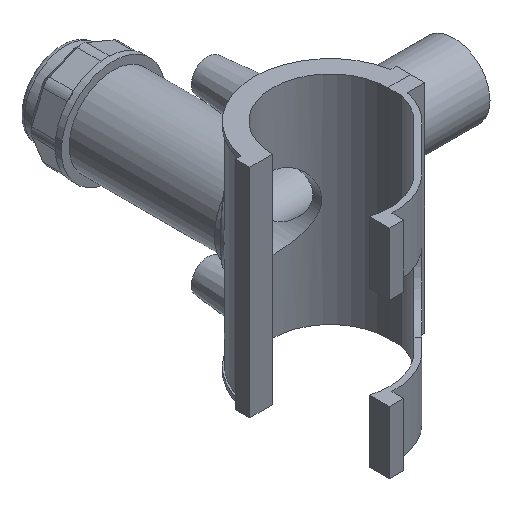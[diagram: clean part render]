
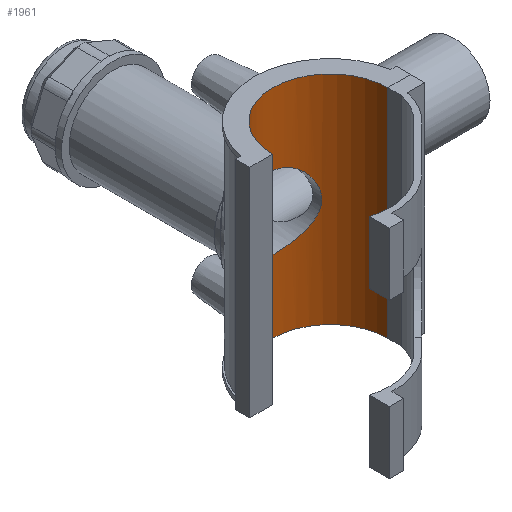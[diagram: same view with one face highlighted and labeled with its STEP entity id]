
A CAD part, isometric view. The second image highlights one B-rep face of the part: STEP entity #1961.
In plain terms, the highlighted cylindrical face has radius 26.55 mm (diameter 53.1 mm), a partial arc.
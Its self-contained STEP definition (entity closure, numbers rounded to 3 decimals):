
#51=FACE_BOUND('',#632,.T.);
#52=B_SPLINE_CURVE_WITH_KNOTS('',3,(#2806,#2807,#2808,#2809,#2810,#2811,
#2812,#2813,#2814,#2815,#2816,#2817,#2818,#2819,#2820,#2821,#2822,#2823,
#2824,#2825,#2826,#2827,#2828,#2829,#2830,#2831,#2832,#2833,#2834,#2835,
#2836,#2837,#2838,#2839,#2840,#2841,#2842,#2843,#2844,#2845,#2846,#2847,
#2848,#2849),.UNSPECIFIED.,.F.,.F.,(4,2,2,2,2,2,2,2,2,2,2,2,2,2,2,2,2,2,
2,2,2,4),(0.,0.328,0.655,1.311,1.636,
1.961,2.286,2.611,2.936,3.261,
3.585,3.91,4.566,4.893,5.221,
5.549,5.876,6.532,6.857,7.182,
7.507,7.832),.UNSPECIFIED.);
#53=B_SPLINE_CURVE_WITH_KNOTS('',3,(#2850,#2851,#2852,#2853,#2854,#2855,
#2856,#2857,#2858,#2859,#2860,#2861,#2862,#2863,#2864,#2865),
 .UNSPECIFIED.,.F.,.F.,(4,2,2,2,2,2,2,4),(7.832,8.157,
8.482,8.807,9.132,9.787,10.115,
10.442),.UNSPECIFIED.);
#179=LINE('',#3788,#336);
#180=LINE('',#3792,#337);
#336=VECTOR('',#2638,10.);
#337=VECTOR('',#2641,10.);
#420=CYLINDRICAL_SURFACE('',#2175,26.55);
#511=FACE_OUTER_BOUND('',#631,.T.);
#631=EDGE_LOOP('',(#1664,#1665,#1666,#1667));
#632=EDGE_LOOP('',(#1668,#1669));
#733=CIRCLE('',#2172,26.55);
#734=CIRCLE('',#2174,26.55);
#753=VERTEX_POINT('',#2803);
#754=VERTEX_POINT('',#2805);
#891=VERTEX_POINT('',#3782);
#893=VERTEX_POINT('',#3786);
#894=VERTEX_POINT('',#3790);
#895=VERTEX_POINT('',#3791);
#945=EDGE_CURVE('',#754,#753,#52,.T.);
#946=EDGE_CURVE('',#753,#754,#53,.T.);
#1154=EDGE_CURVE('',#891,#893,#179,.T.);
#1155=EDGE_CURVE('',#894,#895,#180,.T.);
#1161=EDGE_CURVE('',#891,#895,#733,.T.);
#1162=EDGE_CURVE('',#894,#893,#734,.T.);
#1664=ORIENTED_EDGE('',*,*,#1155,.T.);
#1665=ORIENTED_EDGE('',*,*,#1161,.F.);
#1666=ORIENTED_EDGE('',*,*,#1154,.T.);
#1667=ORIENTED_EDGE('',*,*,#1162,.F.);
#1668=ORIENTED_EDGE('',*,*,#945,.T.);
#1669=ORIENTED_EDGE('',*,*,#946,.T.);
#1961=ADVANCED_FACE('',(#511,#51),#420,.F.);
#2172=AXIS2_PLACEMENT_3D('',#3801,#2649,#2650);
#2174=AXIS2_PLACEMENT_3D('',#3803,#2653,#2654);
#2175=AXIS2_PLACEMENT_3D('',#3806,#2657,#2658);
#2638=DIRECTION('',(0.,0.,-1.));
#2641=DIRECTION('',(0.,0.,1.));
#2649=DIRECTION('center_axis',(0.,0.,-1.));
#2650=DIRECTION('ref_axis',(-1.,0.,0.));
#2653=DIRECTION('center_axis',(0.,0.,1.));
#2654=DIRECTION('ref_axis',(-1.,0.,0.));
#2657=DIRECTION('center_axis',(0.,0.,1.));
#2658=DIRECTION('ref_axis',(-1.,0.,0.));
#2803=CARTESIAN_POINT('',(0.,26.55,-16.727));
#2805=CARTESIAN_POINT('',(-16.727,20.619,0.));
#2806=CARTESIAN_POINT('Ctrl Pts',(-16.727,20.619,0.));
#2807=CARTESIAN_POINT('Ctrl Pts',(-16.727,20.619,1.092));
#2808=CARTESIAN_POINT('Ctrl Pts',(-16.618,20.708,2.205));
#2809=CARTESIAN_POINT('Ctrl Pts',(-16.178,21.054,4.393));
#2810=CARTESIAN_POINT('Ctrl Pts',(-15.847,21.309,5.467));
#2811=CARTESIAN_POINT('Ctrl Pts',(-14.556,22.229,8.534));
#2812=CARTESIAN_POINT('Ctrl Pts',(-13.285,23.045,10.37));
#2813=CARTESIAN_POINT('Ctrl Pts',(-11.105,24.13,12.55));
#2814=CARTESIAN_POINT('Ctrl Pts',(-10.286,24.495,13.234));
#2815=CARTESIAN_POINT('Ctrl Pts',(-8.492,25.174,14.451));
#2816=CARTESIAN_POINT('Ctrl Pts',(-7.516,25.486,14.984));
#2817=CARTESIAN_POINT('Ctrl Pts',(-5.463,26.003,15.848));
#2818=CARTESIAN_POINT('Ctrl Pts',(-4.384,26.209,16.18));
#2819=CARTESIAN_POINT('Ctrl Pts',(-2.194,26.482,16.62));
#2820=CARTESIAN_POINT('Ctrl Pts',(-1.083,26.55,16.727));
#2821=CARTESIAN_POINT('Ctrl Pts',(1.083,26.55,16.727));
#2822=CARTESIAN_POINT('Ctrl Pts',(2.194,26.482,16.62));
#2823=CARTESIAN_POINT('Ctrl Pts',(4.384,26.209,16.18));
#2824=CARTESIAN_POINT('Ctrl Pts',(5.463,26.003,15.848));
#2825=CARTESIAN_POINT('Ctrl Pts',(7.516,25.486,14.984));
#2826=CARTESIAN_POINT('Ctrl Pts',(8.492,25.174,14.451));
#2827=CARTESIAN_POINT('Ctrl Pts',(10.286,24.495,13.234));
#2828=CARTESIAN_POINT('Ctrl Pts',(11.105,24.13,12.55));
#2829=CARTESIAN_POINT('Ctrl Pts',(13.285,23.045,10.37));
#2830=CARTESIAN_POINT('Ctrl Pts',(14.556,22.229,8.534));
#2831=CARTESIAN_POINT('Ctrl Pts',(15.847,21.309,5.467));
#2832=CARTESIAN_POINT('Ctrl Pts',(16.178,21.054,4.393));
#2833=CARTESIAN_POINT('Ctrl Pts',(16.618,20.708,2.205));
#2834=CARTESIAN_POINT('Ctrl Pts',(16.727,20.619,1.092));
#2835=CARTESIAN_POINT('Ctrl Pts',(16.727,20.619,-1.092));
#2836=CARTESIAN_POINT('Ctrl Pts',(16.618,20.708,-2.205));
#2837=CARTESIAN_POINT('Ctrl Pts',(16.178,21.054,-4.393));
#2838=CARTESIAN_POINT('Ctrl Pts',(15.847,21.309,-5.467));
#2839=CARTESIAN_POINT('Ctrl Pts',(14.556,22.229,-8.534));
#2840=CARTESIAN_POINT('Ctrl Pts',(13.285,23.045,-10.37));
#2841=CARTESIAN_POINT('Ctrl Pts',(11.105,24.13,-12.55));
#2842=CARTESIAN_POINT('Ctrl Pts',(10.286,24.495,-13.234));
#2843=CARTESIAN_POINT('Ctrl Pts',(8.492,25.174,-14.451));
#2844=CARTESIAN_POINT('Ctrl Pts',(7.516,25.486,-14.984));
#2845=CARTESIAN_POINT('Ctrl Pts',(5.463,26.003,-15.848));
#2846=CARTESIAN_POINT('Ctrl Pts',(4.384,26.209,-16.18));
#2847=CARTESIAN_POINT('Ctrl Pts',(2.194,26.482,-16.62));
#2848=CARTESIAN_POINT('Ctrl Pts',(1.083,26.55,-16.727));
#2849=CARTESIAN_POINT('Ctrl Pts',(0.,26.55,-16.727));
#2850=CARTESIAN_POINT('Ctrl Pts',(0.,26.55,-16.727));
#2851=CARTESIAN_POINT('Ctrl Pts',(-1.083,26.55,-16.727));
#2852=CARTESIAN_POINT('Ctrl Pts',(-2.194,26.482,-16.62));
#2853=CARTESIAN_POINT('Ctrl Pts',(-4.384,26.209,-16.18));
#2854=CARTESIAN_POINT('Ctrl Pts',(-5.463,26.003,-15.848));
#2855=CARTESIAN_POINT('Ctrl Pts',(-7.516,25.486,-14.984));
#2856=CARTESIAN_POINT('Ctrl Pts',(-8.492,25.174,-14.451));
#2857=CARTESIAN_POINT('Ctrl Pts',(-10.286,24.495,-13.234));
#2858=CARTESIAN_POINT('Ctrl Pts',(-11.105,24.13,-12.55));
#2859=CARTESIAN_POINT('Ctrl Pts',(-13.285,23.045,-10.37));
#2860=CARTESIAN_POINT('Ctrl Pts',(-14.556,22.229,-8.534));
#2861=CARTESIAN_POINT('Ctrl Pts',(-15.847,21.309,-5.467));
#2862=CARTESIAN_POINT('Ctrl Pts',(-16.178,21.054,-4.393));
#2863=CARTESIAN_POINT('Ctrl Pts',(-16.618,20.708,-2.205));
#2864=CARTESIAN_POINT('Ctrl Pts',(-16.727,20.619,-1.092));
#2865=CARTESIAN_POINT('Ctrl Pts',(-16.727,20.619,0.));
#3782=CARTESIAN_POINT('',(-26.55,0.05,50.038));
#3786=CARTESIAN_POINT('',(-26.55,0.05,-50.038));
#3788=CARTESIAN_POINT('',(-26.55,0.05,0.));
#3790=CARTESIAN_POINT('',(26.55,0.05,-50.038));
#3791=CARTESIAN_POINT('',(26.55,0.05,50.038));
#3792=CARTESIAN_POINT('',(26.55,0.05,0.));
#3801=CARTESIAN_POINT('Origin',(0.,0.,50.038));
#3803=CARTESIAN_POINT('Origin',(0.,0.,-50.038));
#3806=CARTESIAN_POINT('Origin',(0.,0.,0.));
